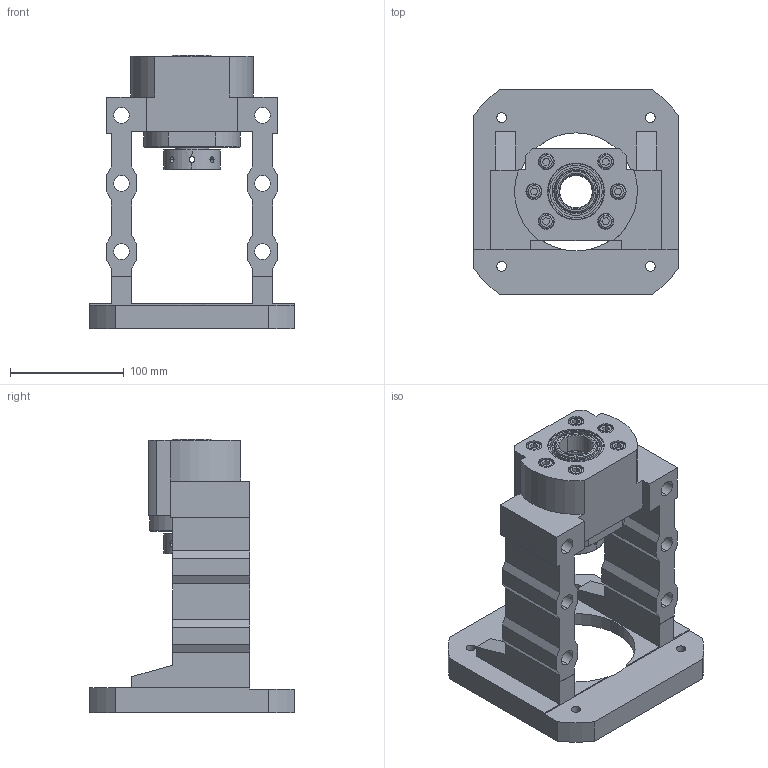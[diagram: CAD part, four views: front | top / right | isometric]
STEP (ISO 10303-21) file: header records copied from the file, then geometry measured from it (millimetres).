
FILE_DESCRIPTION (( 'STEP AP203' ), '1' );
FILE_NAME ('MBCK30-J²Õ¦X¥ó.STEP', '2024-09-03T02:02:00', ( '' ), ( '' ), 'SwSTEP 2.0', 'SolidWorks 2018', '' );
FILE_SCHEMA (( 'CONFIG_CONTROL_DESIGN' ));
Length unit declared in the file: millimetre
Products named in the file (1): MBCK30-J組合件
Bounding box: 180 x 180 x 241 mm (x, y, z)
Surface area: 221702.6 mm2 (no closed solid volume)
Topology: 0 solids, 21 shells, 334 faces, 910 edges, 593 vertices
Faces by surface type: plane 137, cylinder 128, cone 45, torus 24
Entity records: 11485 total; most frequent: CARTESIAN_POINT 2846, DIRECTION 1855, ORIENTED_EDGE 1643, EDGE_CURVE 902, AXIS2_PLACEMENT_3D 694, VERTEX_POINT 593, LINE 467, VECTOR 467
